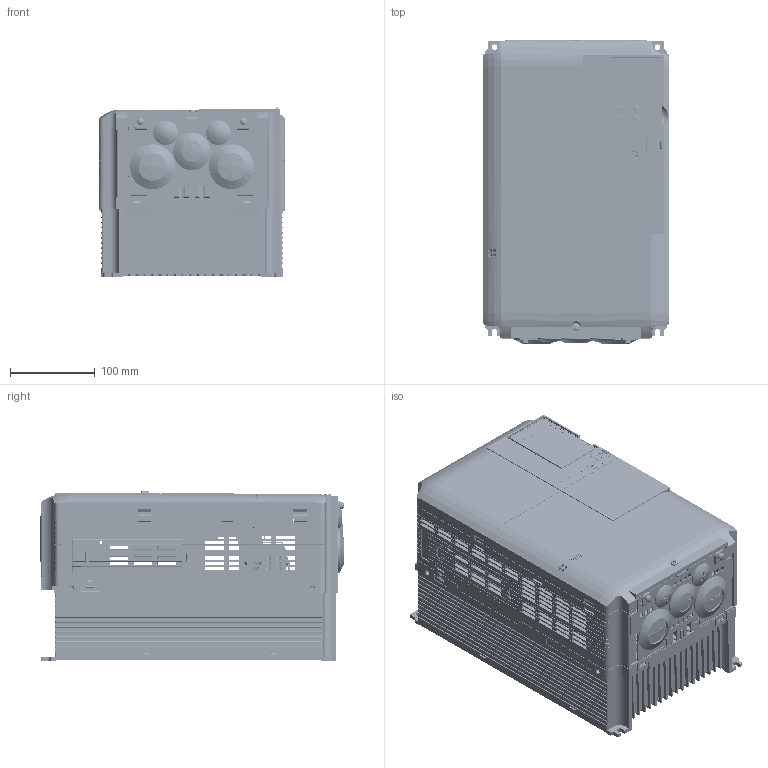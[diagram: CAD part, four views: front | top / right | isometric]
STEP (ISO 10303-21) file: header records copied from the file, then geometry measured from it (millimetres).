
FILE_DESCRIPTION((''),'2;1');
FILE_NAME('71616-AC4A0044FAA_ASM','2010-02-19T',('jc'),('YASKAWA ELECTRIC CORCORATION'),'PRO/ENGINEER BY PARAMETRIC TECHNOLOGY CORPORATION, 2008490','PRO/ENGINEER BY PARAMETRIC TECHNOLOGY CORPORATION, 2008490','');
FILE_SCHEMA(('CONFIG_CONTROL_DESIGN'));
Length unit declared in the file: millimetre
Products named in the file (109): LAY_AC4A0044FAA; HSGT21109_1; HSGT21109_3; HSGT21109-A_ASM; ISCT21011_1; ISCT21011_2_AF0; ISCT21011_ASM; CVST31323; YPHT31615-1C_AF0; TBET31180_1_1_AF0; TBET31180_1_2_AF0; TBET31180_1_2_AF1; TBET31180_1_2_AF2; TBET31180_1_2_AF3; TBET31180_1_2_AF4; TBET31180_1_2_AF5; TBET31180_1_2_AF6; TBET31180_1_2_AF7; TBET31180_1_2_AF8; TBET31180_1_3_AF0; TBET31180_1_3_AF1; TBET31180_1_5_AF1; TBET31180_1_4_AF3; TBET31180_1_4_AF4; TBET31180_1_4_AF5; TBET31180_1_7_AF5; TBET31180_1_7_AF6; TBET31180_1_7_AF7; TBET31180_1_7_AF8; TBET31180_1_7_AF9; TBET31180_1_6_AF0; TBET31180_1_6_AF1; TBET31180_1_AF0_ASM; TBET31180_4_AF0; TBET31180_2_AF0; TBET31180_3_AF0; TBET31180_3_AF1; TBET31180_2_AF1; TBET31180_2_AF2; TBET31180_2_AF3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
Assembly tree (117 placements, depth 5):
  71616-AC4A0044FAA_ASM
    LAY_AC4A0044FAA
    HSGT21109-A_ASM
      HSGT21109_1
      HSGT21109_3  x4
    ISCT21011_ASM
      ISCT21011_1
      ISCT21011_2_AF0
    CVST31323
    ETP712190_ASM
      YPHT31615-1C_AF0
      TBET31180_AF0_ASM
        TBET31180_1_AF0_ASM
          TBET31180_1_1_AF0
          TBET31180_1_2_AF0
          TBET31180_1_2_AF1
          TBET31180_1_2_AF2
          TBET31180_1_2_AF3
          TBET31180_1_2_AF4
          TBET31180_1_2_AF5
          TBET31180_1_2_AF6
          TBET31180_1_2_AF7
          TBET31180_1_2_AF8
          TBET31180_1_3_AF0
          TBET31180_1_3_AF1
          TBET31180_1_5_AF1
          TBET31180_1_4_AF3
          TBET31180_1_4_AF4
          TBET31180_1_4_AF5
          TBET31180_1_7_AF5
          TBET31180_1_7_AF6
          TBET31180_1_7_AF7
          TBET31180_1_7_AF8
          TBET31180_1_7_AF9
          TBET31180_1_6_AF0
          TBET31180_1_6_AF1
        TBET31180_4_AF0
        TBET31180_2_AF0
        TBET31180_3_AF0
        TBET31180_3_AF1
        TBET31180_2_AF1
        TBET31180_2_AF2
        TBET31180_2_AF3
        TBET31180_2_AF4
        TBET31180_2_AF5
        TBET31180_2_AF6
        TBET31180_2_AF7
        TBET31180_2_AF8
    CVST31364
    CVST21164_ASM
      CVST21164_1_AF0
      CVST21164_2_AF0
      CVST21164_3_AF0
      CVST21164_3_AF1
      CVST21164_3_AF2
      CVST21164_3_AF3
      CVST21164_3_AF4
      CVST21164_3_AF5
      CVST21164_3_AF6
      CVST21164_3_AF7
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Bounding box: 220 x 358.4 x 199.89 mm (x, y, z)
Volume: 9918197 mm3; surface area: 1444255.7 mm2
Topology: 212 solids, 220 shells, 17957 faces, 49797 edges, 32233 vertices
Faces by surface type: plane 13914, cylinder 2316, cone 727, sphere 327, torus 326, bspline 227, extrusion 120
Entity records: 584798 total; most frequent: CARTESIAN_POINT 129679, ORIENTED_EDGE 97990, DIRECTION 88044, EDGE_CURVE 48995, VECTOR 40376, LINE 40256, VERTEX_POINT 31819, AXIS2_PLACEMENT_3D 23834
